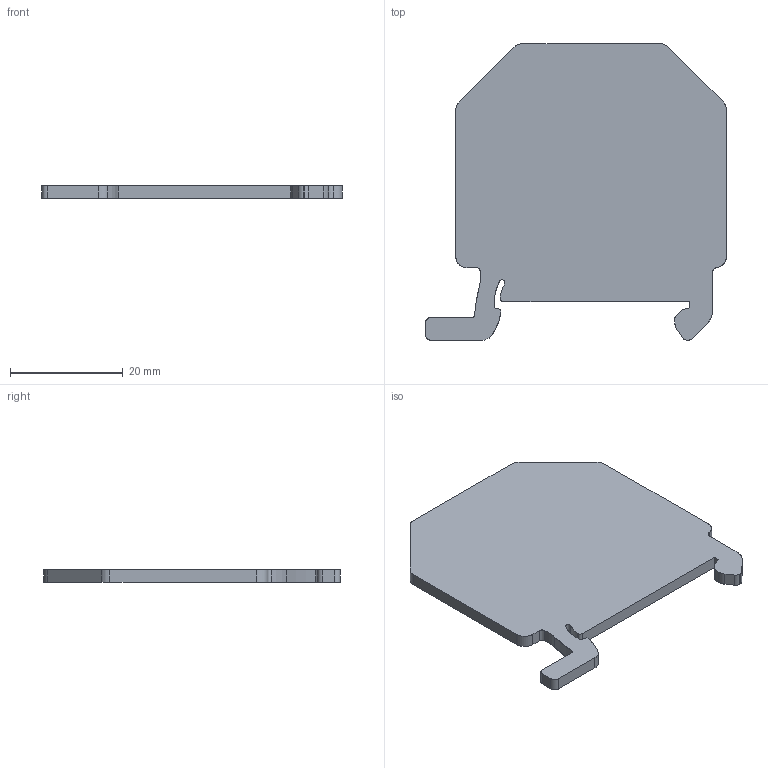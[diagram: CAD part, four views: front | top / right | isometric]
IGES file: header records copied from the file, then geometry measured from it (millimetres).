
Global section: file name: 3047167-atp-ut-select.igs; native system: OneSpace Designer 3D IGES; preprocessor: 13.01  05-Feb-2005; date: 20051102.073350; units: millimetre
Bounding box: 53.37 x 52.55 x 2.2 mm (x, y, z)
Surface area: 4741.4 mm2 (no closed solid volume)
Topology: 0 solids, 0 shells, 49 faces, 398 edges, 398 vertices
Faces by surface type: bspline 49
